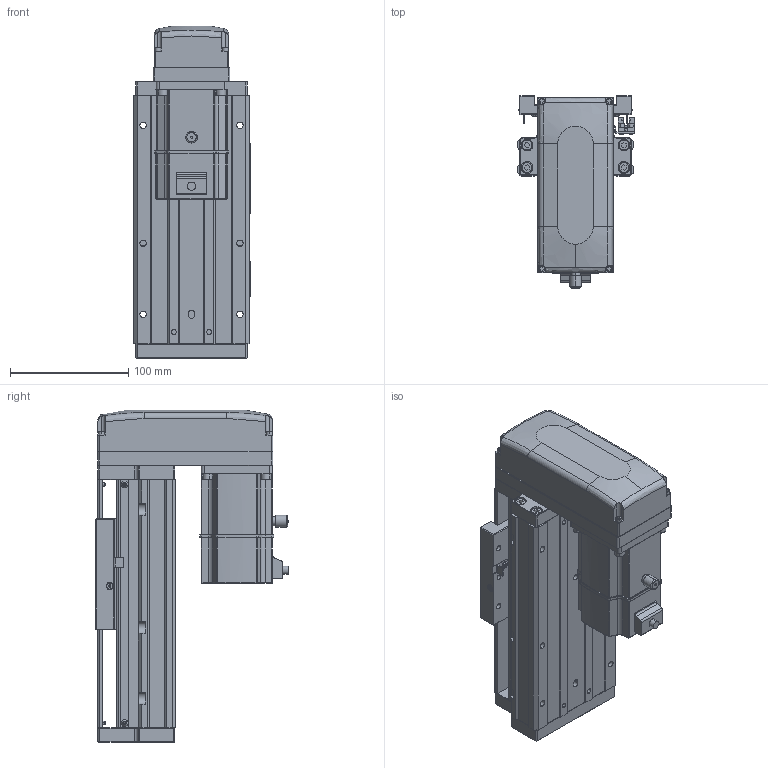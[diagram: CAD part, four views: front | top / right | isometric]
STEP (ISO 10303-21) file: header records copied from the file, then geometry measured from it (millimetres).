
FILE_DESCRIPTION (( 'STEP AP203' ), '1' );
FILE_NAME ('KTHA100-50-BM-M20-C4L.step', '2022-04-26T01:53:18', ( '微软用户' ), ( '微软中国' ), 'SwSTEP 2.0', 'SolidWorks 2020', '' );
FILE_SCHEMA (( 'CONFIG_CONTROL_DESIGN' ));
Length unit declared in the file: millimetre
Products named in the file (17): GBT 70.1-M3℅6; KTHA100-50-BM-M20-C4L; KTHA100-005; GBT70.1 M5℅16; GB¨uT 70.2-M3¡Á5_M3¡Á6; CTHA60-016; EE_SX911P_R; GBT 70.3-M3℅6; CTHA60-017; _X2_4E0983F1_X0_200W_1; KTHA100-001_210; CTHA60-021; CTHA86-015-1_CTHA86-015-2; KTHA100-002; GBT77-2000 M3×3; CTHA86-033; KTHA100-004
Assembly tree (57 placements, depth 2):
  KTHA100-50-BM-M20-C4L
    KTHA100-001_210
    KTHA100-002
    KTHA100-004
    KTHA100-005
    GB¨uT 70.2-M3¡Á5_M3¡Á6  x6
    EE_SX911P_R  x3
    CTHA60-017  x3
    CTHA60-021  x2
    GBT77-2000 M3×3  x6
    GBT 70.1-M3℅6  x10
    GBT70.1 M5℅16  x14
    CTHA60-016  x2
    GBT 70.3-M3℅6  x4
    _X2_4E0983F1_X0_200W_1
    CTHA86-015-1_CTHA86-015-2
    CTHA86-033
Bounding box: 98.82 x 163.2 x 281 mm (x, y, z)
Volume: 1734001.9 mm3; surface area: 296207.7 mm2
Topology: 60 solids, 60 shells, 2337 faces, 5553 edges, 3436 vertices
Faces by surface type: plane 1184, cylinder 647, cone 299, torus 116, bspline 75, sphere 16
Entity records: 38718 total; most frequent: CARTESIAN_POINT 7888, DIRECTION 5942, ORIENTED_EDGE 5718, EDGE_CURVE 2859, AXIS2_PLACEMENT_3D 2098, VERTEX_POINT 1796, VECTOR 1746, LINE 1746
